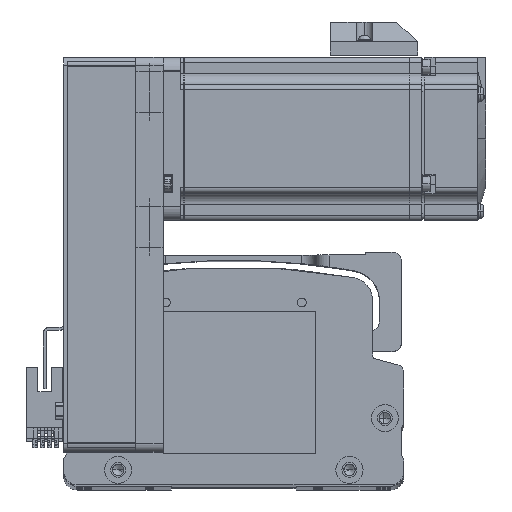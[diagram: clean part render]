
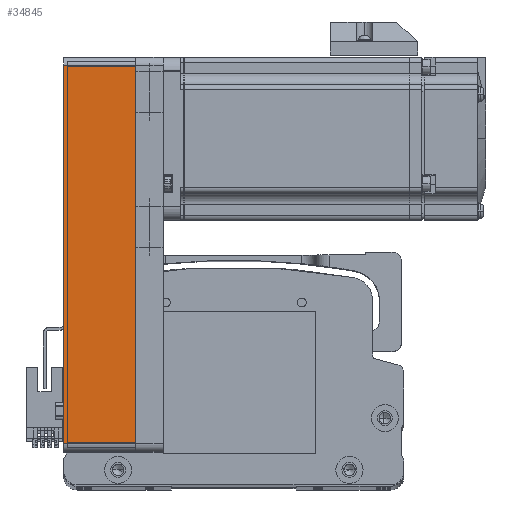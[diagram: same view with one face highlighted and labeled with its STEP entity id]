
A CAD part, top view. The second image highlights one B-rep face of the part: STEP entity #34845.
In plain terms, the highlighted planar face has unit normal (0, 0, 1) as drawn and (0, -1, 0) by its records, which use the part's own axes.
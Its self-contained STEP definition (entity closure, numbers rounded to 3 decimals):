
#1511 = EDGE_CURVE ( 'NONE', #59102, #77166, #28532, .T. ) ;
#4011 = VECTOR ( 'NONE', #44990, 1000. ) ;
#9318 = AXIS2_PLACEMENT_3D ( 'NONE', #16618, #61339, #23071 ) ;
#12270 = CARTESIAN_POINT ( 'NONE',  ( 72.5, -30., 26.5 ) ) ;
#14300 = VECTOR ( 'NONE', #62140, 1000. ) ;
#16618 = CARTESIAN_POINT ( 'NONE',  ( 72.5, -30., 26.5 ) ) ;
#17405 = CARTESIAN_POINT ( 'NONE',  ( 69.5, -30., 26.5 ) ) ;
#18677 = DIRECTION ( 'NONE',  ( 1., 0., 0. ) ) ;
#20673 = DIRECTION ( 'NONE',  ( 0., 0., -1. ) ) ;
#21984 = ORIENTED_EDGE ( 'NONE', *, *, #47310, .T. ) ;
#23025 = LINE ( 'NONE', #70445, #4011 ) ;
#23071 = DIRECTION ( 'NONE',  ( -1., 0., 0. ) ) ;
#25084 = VECTOR ( 'NONE', #18677, 1000. ) ;
#26517 = VECTOR ( 'NONE', #20673, 1000. ) ;
#28532 = LINE ( 'NONE', #58949, #26517 ) ;
#29223 = CARTESIAN_POINT ( 'NONE',  ( 69.5, -30., 26.5 ) ) ;
#29259 = PLANE ( 'NONE',  #9318 ) ;
#29815 = VERTEX_POINT ( 'NONE', #29223 ) ;
#32104 = VERTEX_POINT ( 'NONE', #66862 ) ;
#32763 = ORIENTED_EDGE ( 'NONE', *, *, #74460, .T. ) ;
#34845 = ADVANCED_FACE ( 'NONE', ( #52744 ), #29259, .F. ) ;
#42787 = ORIENTED_EDGE ( 'NONE', *, *, #76265, .F. ) ;
#44075 = LINE ( 'NONE', #12270, #25084 ) ;
#44990 = DIRECTION ( 'NONE',  ( 1., 0., 0. ) ) ;
#47310 = EDGE_CURVE ( 'NONE', #77166, #32104, #23025, .T. ) ;
#51831 = CARTESIAN_POINT ( 'NONE',  ( -69.5, -30., 26.5 ) ) ;
#52744 = FACE_OUTER_BOUND ( 'NONE', #81493, .T. ) ;
#55203 = ORIENTED_EDGE ( 'NONE', *, *, #1511, .T. ) ;
#58949 = CARTESIAN_POINT ( 'NONE',  ( -69.5, -30., 26.5 ) ) ;
#59102 = VERTEX_POINT ( 'NONE', #51831 ) ;
#61339 = DIRECTION ( 'NONE',  ( 0., 1., 0. ) ) ;
#62140 = DIRECTION ( 'NONE',  ( 0., 0., 1. ) ) ;
#66862 = CARTESIAN_POINT ( 'NONE',  ( 69.5, -30., 0. ) ) ;
#69284 = LINE ( 'NONE', #17405, #14300 ) ;
#70445 = CARTESIAN_POINT ( 'NONE',  ( 72.5, -30., 0. ) ) ;
#74237 = CARTESIAN_POINT ( 'NONE',  ( -69.5, -30., 0. ) ) ;
#74460 = EDGE_CURVE ( 'NONE', #32104, #29815, #69284, .T. ) ;
#76265 = EDGE_CURVE ( 'NONE', #59102, #29815, #44075, .T. ) ;
#77166 = VERTEX_POINT ( 'NONE', #74237 ) ;
#81493 = EDGE_LOOP ( 'NONE', ( #21984, #32763, #42787, #55203 ) ) ;
